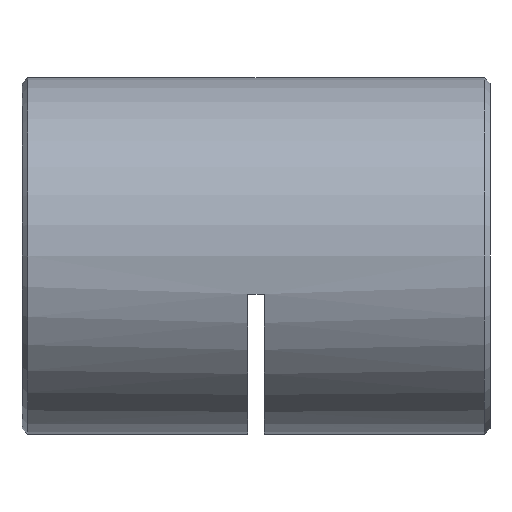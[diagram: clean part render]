
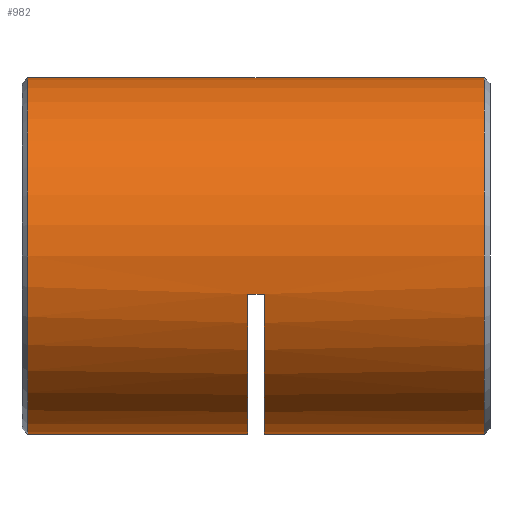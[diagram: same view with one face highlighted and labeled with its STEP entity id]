
A CAD part, left-side view. The second image highlights one B-rep face of the part: STEP entity #982.
In plain terms, the highlighted cylindrical face has radius 16 mm (diameter 32 mm), a partial arc.
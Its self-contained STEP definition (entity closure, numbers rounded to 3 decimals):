
#85 = ORIENTED_EDGE ( 'NONE', *, *, #3329, .T. ) ;
#154 = DIRECTION ( 'NONE',  ( 0., -1., 0. ) ) ;
#169 = CARTESIAN_POINT ( 'NONE',  ( 0., 0.75, -16. ) ) ;
#209 = ORIENTED_EDGE ( 'NONE', *, *, #3960, .T. ) ;
#251 = AXIS2_PLACEMENT_3D ( 'NONE', #6098, #703, #6079 ) ;
#347 = VERTEX_POINT ( 'NONE', #1978 ) ;
#497 = CARTESIAN_POINT ( 'NONE',  ( -15.632, 22., -3.413 ) ) ;
#522 = EDGE_CURVE ( 'NONE', #347, #3592, #3698, .T. ) ;
#531 = CIRCLE ( 'NONE', #1307, 16. ) ;
#565 = AXIS2_PLACEMENT_3D ( 'NONE', #2602, #6010, #3083 ) ;
#679 = EDGE_CURVE ( 'NONE', #2269, #4241, #2473, .T. ) ;
#703 = DIRECTION ( 'NONE',  ( 0., -1., 0. ) ) ;
#911 = EDGE_CURVE ( 'NONE', #347, #6051, #531, .T. ) ;
#921 = DIRECTION ( 'NONE',  ( 0., -1., 0. ) ) ;
#982 = ADVANCED_FACE ( 'NONE', ( #1829 ), #5756, .T. ) ;
#1029 = LINE ( 'NONE', #1823, #2747 ) ;
#1088 = CARTESIAN_POINT ( 'NONE',  ( 0., 41.75, 0. ) ) ;
#1119 = CARTESIAN_POINT ( 'NONE',  ( 0., 42.5, -16. ) ) ;
#1209 = DIRECTION ( 'NONE',  ( 0., -1., 0. ) ) ;
#1307 = AXIS2_PLACEMENT_3D ( 'NONE', #1088, #4019, #2061 ) ;
#1378 = AXIS2_PLACEMENT_3D ( 'NONE', #4923, #2468, #1550 ) ;
#1550 = DIRECTION ( 'NONE',  ( 0., 0., 1. ) ) ;
#1823 = CARTESIAN_POINT ( 'NONE',  ( 0., 42.5, -16. ) ) ;
#1829 = FACE_OUTER_BOUND ( 'NONE', #6222, .T. ) ;
#1951 = VECTOR ( 'NONE', #2638, 1000. ) ;
#1978 = CARTESIAN_POINT ( 'NONE',  ( 0., 41.75, 16. ) ) ;
#2061 = DIRECTION ( 'NONE',  ( 0., 0., -1. ) ) ;
#2180 = LINE ( 'NONE', #1119, #3568 ) ;
#2225 = CARTESIAN_POINT ( 'NONE',  ( 0., 42.5, 16. ) ) ;
#2269 = VERTEX_POINT ( 'NONE', #497 ) ;
#2287 = ORIENTED_EDGE ( 'NONE', *, *, #4147, .T. ) ;
#2468 = DIRECTION ( 'NONE',  ( 0., 1., 0. ) ) ;
#2473 = CIRCLE ( 'NONE', #2599, 16. ) ;
#2514 = VERTEX_POINT ( 'NONE', #169 ) ;
#2599 = AXIS2_PLACEMENT_3D ( 'NONE', #3880, #921, #4367 ) ;
#2602 = CARTESIAN_POINT ( 'NONE',  ( 0., 42.5, 0. ) ) ;
#2638 = DIRECTION ( 'NONE',  ( 0., -1., 0. ) ) ;
#2714 = ORIENTED_EDGE ( 'NONE', *, *, #5624, .T. ) ;
#2747 = VECTOR ( 'NONE', #6153, 1000. ) ;
#2878 = CIRCLE ( 'NONE', #1378, 16. ) ;
#2961 = CIRCLE ( 'NONE', #251, 16. ) ;
#3049 = CARTESIAN_POINT ( 'NONE',  ( 0., 41.75, -16. ) ) ;
#3080 = VERTEX_POINT ( 'NONE', #4824 ) ;
#3083 = DIRECTION ( 'NONE',  ( 0., 0., -1. ) ) ;
#3129 = LINE ( 'NONE', #5979, #1951 ) ;
#3329 = EDGE_CURVE ( 'NONE', #2269, #3080, #3129, .T. ) ;
#3357 = VERTEX_POINT ( 'NONE', #5056 ) ;
#3538 = ORIENTED_EDGE ( 'NONE', *, *, #679, .F. ) ;
#3568 = VECTOR ( 'NONE', #154, 1000. ) ;
#3592 = VERTEX_POINT ( 'NONE', #4262 ) ;
#3634 = CARTESIAN_POINT ( 'NONE',  ( 0., 22., -16. ) ) ;
#3698 = LINE ( 'NONE', #2225, #4229 ) ;
#3880 = CARTESIAN_POINT ( 'NONE',  ( 0., 22., 0. ) ) ;
#3960 = EDGE_CURVE ( 'NONE', #3357, #2514, #1029, .T. ) ;
#4019 = DIRECTION ( 'NONE',  ( 0., -1., 0. ) ) ;
#4147 = EDGE_CURVE ( 'NONE', #3080, #3357, #2961, .T. ) ;
#4229 = VECTOR ( 'NONE', #1209, 1000. ) ;
#4241 = VERTEX_POINT ( 'NONE', #3634 ) ;
#4262 = CARTESIAN_POINT ( 'NONE',  ( 0., 0.75, 16. ) ) ;
#4296 = ORIENTED_EDGE ( 'NONE', *, *, #522, .F. ) ;
#4367 = DIRECTION ( 'NONE',  ( 0., 0., -1. ) ) ;
#4824 = CARTESIAN_POINT ( 'NONE',  ( -15.632, 20.5, -3.413 ) ) ;
#4923 = CARTESIAN_POINT ( 'NONE',  ( 0., 0.75, 0. ) ) ;
#5056 = CARTESIAN_POINT ( 'NONE',  ( 0., 20.5, -16. ) ) ;
#5220 = EDGE_CURVE ( 'NONE', #2514, #3592, #2878, .T. ) ;
#5624 = EDGE_CURVE ( 'NONE', #6051, #4241, #2180, .T. ) ;
#5756 = CYLINDRICAL_SURFACE ( 'NONE', #565, 16. ) ;
#5783 = ORIENTED_EDGE ( 'NONE', *, *, #5220, .T. ) ;
#5979 = CARTESIAN_POINT ( 'NONE',  ( -15.632, 21.25, -3.413 ) ) ;
#6010 = DIRECTION ( 'NONE',  ( 0., -1., 0. ) ) ;
#6051 = VERTEX_POINT ( 'NONE', #3049 ) ;
#6079 = DIRECTION ( 'NONE',  ( 0., 0., -1. ) ) ;
#6098 = CARTESIAN_POINT ( 'NONE',  ( 0., 20.5, 0. ) ) ;
#6153 = DIRECTION ( 'NONE',  ( 0., -1., 0. ) ) ;
#6169 = ORIENTED_EDGE ( 'NONE', *, *, #911, .T. ) ;
#6222 = EDGE_LOOP ( 'NONE', ( #4296, #6169, #2714, #3538, #85, #2287, #209, #5783 ) ) ;
